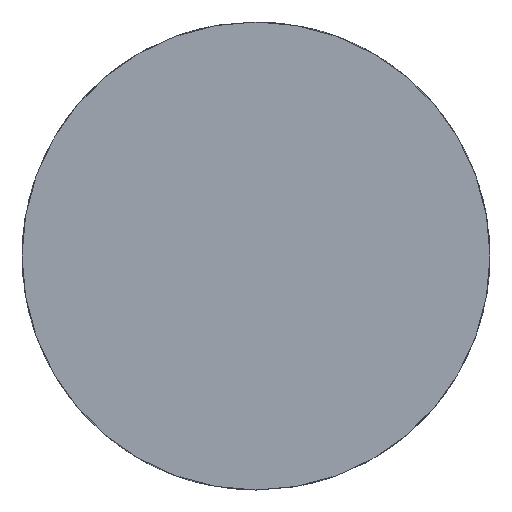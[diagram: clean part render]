
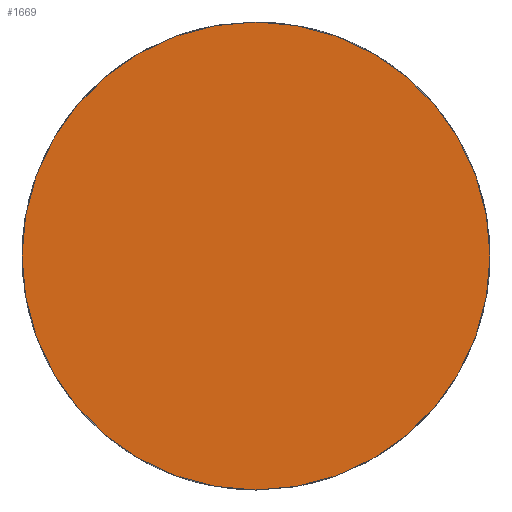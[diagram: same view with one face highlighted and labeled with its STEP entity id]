
A CAD part, front view. The second image highlights one B-rep face of the part: STEP entity #1669.
In plain terms, the highlighted planar face has unit normal (0, -1, 0).
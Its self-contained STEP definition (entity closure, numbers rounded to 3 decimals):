
#109 = DIRECTION ( 'NONE',  ( 0., 1., 0. ) ) ;
#118 = DIRECTION ( 'NONE',  ( 0., 0., 1. ) ) ;
#830 = FACE_OUTER_BOUND ( 'NONE', #2418, .T. ) ;
#877 = AXIS2_PLACEMENT_3D ( 'NONE', #1553, #2699, #1339 ) ;
#964 = EDGE_CURVE ( 'NONE', #1468, #2275, #1718, .T. ) ;
#1218 = CIRCLE ( 'NONE', #877, 2.75 ) ;
#1232 = AXIS2_PLACEMENT_3D ( 'NONE', #2317, #1389, #2747 ) ;
#1339 = DIRECTION ( 'NONE',  ( 0., 0., 1. ) ) ;
#1389 = DIRECTION ( 'NONE',  ( 0., 1., 0. ) ) ;
#1458 = EDGE_CURVE ( 'NONE', #2275, #1468, #1218, .T. ) ;
#1468 = VERTEX_POINT ( 'NONE', #1780 ) ;
#1553 = CARTESIAN_POINT ( 'NONE',  ( 0., 0., 0. ) ) ;
#1643 = AXIS2_PLACEMENT_3D ( 'NONE', #2341, #109, #118 ) ;
#1669 = ADVANCED_FACE ( 'NONE', ( #830 ), #2353, .F. ) ;
#1718 = CIRCLE ( 'NONE', #1232, 2.75 ) ;
#1727 = ORIENTED_EDGE ( 'NONE', *, *, #1458, .F. ) ;
#1780 = CARTESIAN_POINT ( 'NONE',  ( 0., 0., 2.75 ) ) ;
#2275 = VERTEX_POINT ( 'NONE', #2544 ) ;
#2317 = CARTESIAN_POINT ( 'NONE',  ( 0., 0., 0. ) ) ;
#2341 = CARTESIAN_POINT ( 'NONE',  ( 0., 0., 0. ) ) ;
#2353 = PLANE ( 'NONE',  #1643 ) ;
#2418 = EDGE_LOOP ( 'NONE', ( #1727, #2590 ) ) ;
#2544 = CARTESIAN_POINT ( 'NONE',  ( 0., 0., -2.75 ) ) ;
#2590 = ORIENTED_EDGE ( 'NONE', *, *, #964, .F. ) ;
#2699 = DIRECTION ( 'NONE',  ( 0., 1., 0. ) ) ;
#2747 = DIRECTION ( 'NONE',  ( 0., 0., 1. ) ) ;
